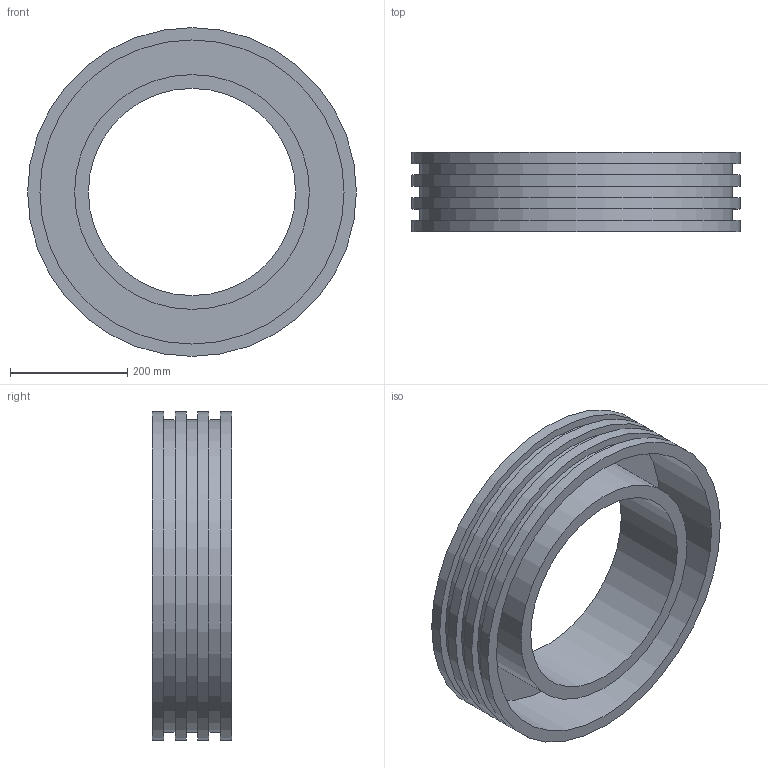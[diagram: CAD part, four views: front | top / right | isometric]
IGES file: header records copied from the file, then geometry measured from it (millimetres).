
Global section: file name: 37020400.ipt; native system: Autodesk Inventor 2015; preprocessor: unknown; author: Кирилл,,11,0; organization: 20170830.190241; date: 20171106.093319; units: millimetre
Bounding box: 560 x 135 x 560 mm (x, y, z)
Volume: 7984010.5 mm3; surface area: 1184607.7 mm2
Topology: 1 solids, 1 shells, 20 faces, 34 edges, 24 vertices
Faces by surface type: plane 10, cylinder 8, revolution 2
Full cylindrical faces by diameter (mm): 400 x1, 532 x3, 560 x4
